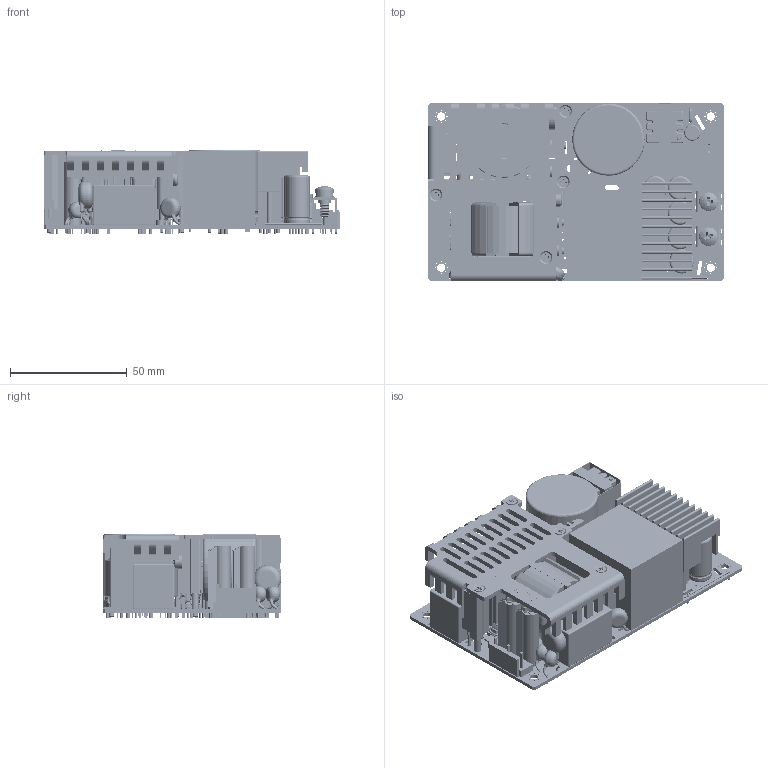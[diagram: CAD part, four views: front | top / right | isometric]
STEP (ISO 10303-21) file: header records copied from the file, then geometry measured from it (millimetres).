
FILE_DESCRIPTION (( 'STEP AP214' ), '1' );
FILE_NAME ('CUS600M(12V-NO SMD)-20191023.STEP', '2019-10-23T08:30:49', ( '' ), ( '' ), 'SwSTEP 2.0', 'SolidWorks 2017', '' );
FILE_SCHEMA (( 'AUTOMOTIVE_DESIGN' ));
Length unit declared in the file: millimetre
Products named in the file (1): CUS600M(12V-NO SMD)-20191023
Bounding box: 127 x 76.25 x 36.3 mm (x, y, z)
Volume: 176002.3 mm3; surface area: 118971.6 mm2
Topology: 115 solids, 116 shells, 4832 faces, 12242 edges, 7708 vertices
Faces by surface type: plane 2071, cylinder 1733, cone 616, torus 352, bspline 34, sphere 26
Entity records: 203519 total; most frequent: CARTESIAN_POINT 28305, DIRECTION 26560, ORIENTED_EDGE 24408, EDGE_CURVE 12204, AXIS2_PLACEMENT_3D 9761, VERTEX_POINT 7708, VECTOR 7038, LINE 7038
